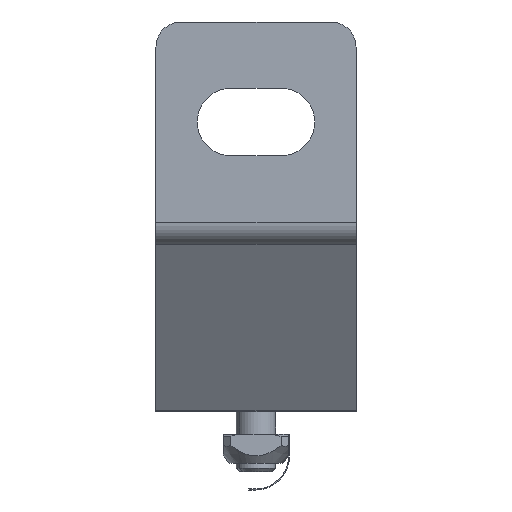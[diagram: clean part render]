
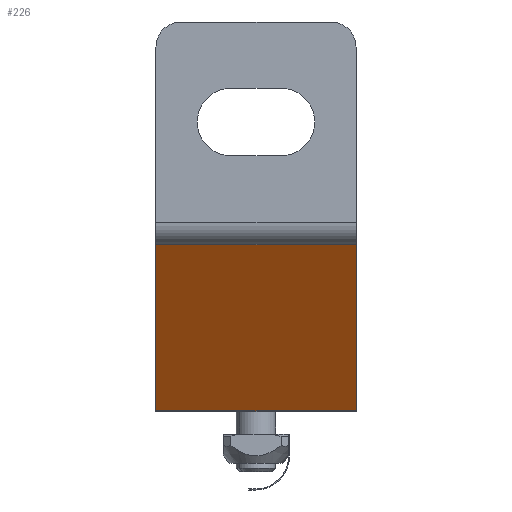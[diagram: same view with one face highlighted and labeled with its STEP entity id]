
A CAD part, front view. The second image highlights one B-rep face of the part: STEP entity #226.
In plain terms, the highlighted planar face has unit normal (0, -0.259, -0.966).
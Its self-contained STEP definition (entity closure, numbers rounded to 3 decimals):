
#29 = CARTESIAN_POINT ( 'NONE',  ( 626.254, 734.374, 1277.282 ) ) ;
#53 = CARTESIAN_POINT ( 'NONE',  ( 626.254, 858.271, 1244.083 ) ) ;
#66 = DIRECTION ( 'NONE',  ( 0., 0.966, -0.259 ) ) ;
#226 = ADVANCED_FACE ( 'NONE', ( #488 ), #5910, .F. ) ;
#488 = FACE_OUTER_BOUND ( 'NONE', #1102, .T. ) ;
#550 = DIRECTION ( 'NONE',  ( 0., -0.966, 0.259 ) ) ;
#570 = DIRECTION ( 'NONE',  ( 0., -0.966, 0.259 ) ) ;
#657 = LINE ( 'NONE', #6470, #3844 ) ;
#852 = VERTEX_POINT ( 'NONE', #4779 ) ;
#958 = DIRECTION ( 'NONE',  ( 0., 0.259, 0.966 ) ) ;
#1102 = EDGE_LOOP ( 'NONE', ( #4930, #2010, #2393, #6982 ) ) ;
#1762 = CARTESIAN_POINT ( 'NONE',  ( 666.254, 858.271, 1244.083 ) ) ;
#2010 = ORIENTED_EDGE ( 'NONE', *, *, #6314, .T. ) ;
#2115 = CARTESIAN_POINT ( 'NONE',  ( 646.254, 728.828, 1278.768 ) ) ;
#2241 = EDGE_CURVE ( 'NONE', #3222, #852, #5678, .T. ) ;
#2393 = ORIENTED_EDGE ( 'NONE', *, *, #2241, .F. ) ;
#2398 = VERTEX_POINT ( 'NONE', #1762 ) ;
#2719 = DIRECTION ( 'NONE',  ( 1., 0., 0. ) ) ;
#3044 = VERTEX_POINT ( 'NONE', #3100 ) ;
#3100 = CARTESIAN_POINT ( 'NONE',  ( 626.254, 858.271, 1244.083 ) ) ;
#3222 = VERTEX_POINT ( 'NONE', #29 ) ;
#3505 = AXIS2_PLACEMENT_3D ( 'NONE', #2115, #958, #550 ) ;
#3558 = CARTESIAN_POINT ( 'NONE',  ( 666.254, 734.374, 1277.282 ) ) ;
#3844 = VECTOR ( 'NONE', #66, 1000. ) ;
#4037 = VECTOR ( 'NONE', #570, 1000. ) ;
#4654 = VECTOR ( 'NONE', #2719, 1000. ) ;
#4679 = EDGE_CURVE ( 'NONE', #3044, #2398, #5724, .T. ) ;
#4779 = CARTESIAN_POINT ( 'NONE',  ( 666.254, 734.374, 1277.282 ) ) ;
#4789 = VECTOR ( 'NONE', #6882, 1000. ) ;
#4808 = EDGE_CURVE ( 'NONE', #3222, #3044, #657, .T. ) ;
#4930 = ORIENTED_EDGE ( 'NONE', *, *, #4679, .T. ) ;
#5678 = LINE ( 'NONE', #3558, #4789 ) ;
#5724 = LINE ( 'NONE', #53, #4654 ) ;
#5910 = PLANE ( 'NONE',  #3505 ) ;
#5957 = LINE ( 'NONE', #6558, #4037 ) ;
#6314 = EDGE_CURVE ( 'NONE', #2398, #852, #5957, .T. ) ;
#6470 = CARTESIAN_POINT ( 'NONE',  ( 626.254, 728.828, 1278.768 ) ) ;
#6558 = CARTESIAN_POINT ( 'NONE',  ( 666.254, 728.828, 1278.768 ) ) ;
#6882 = DIRECTION ( 'NONE',  ( 1., 0., 0. ) ) ;
#6982 = ORIENTED_EDGE ( 'NONE', *, *, #4808, .T. ) ;
